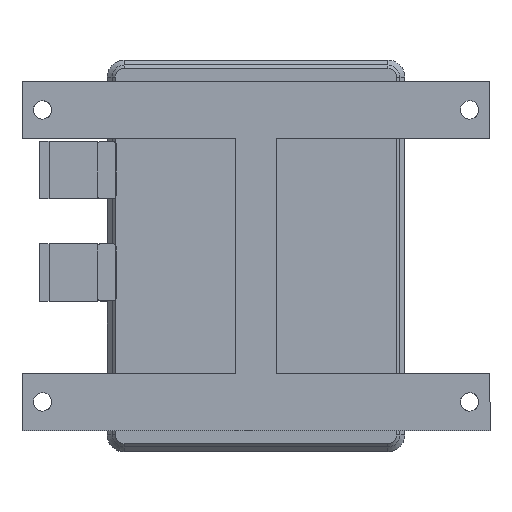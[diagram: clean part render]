
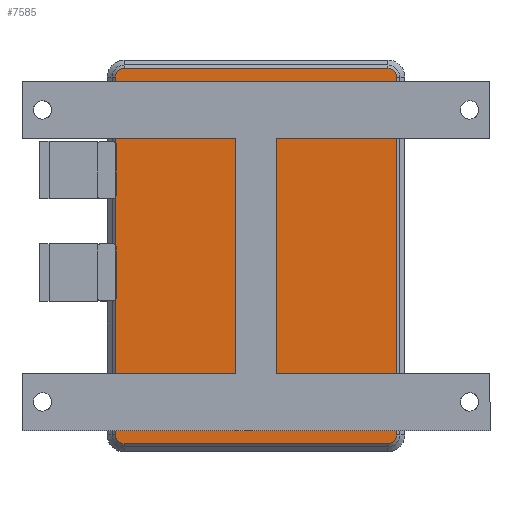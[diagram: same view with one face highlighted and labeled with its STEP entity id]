
A CAD part, top view. The second image highlights one B-rep face of the part: STEP entity #7585.
In plain terms, the highlighted planar face has unit normal (0, 0, 1).
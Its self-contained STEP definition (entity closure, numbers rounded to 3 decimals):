
#12=DIRECTION('',(1.0,0.0,0.0));
#1554=DIRECTION('',(-1.0,0.0,0.0));
#1675=DIRECTION('',(0.0,1.0,0.0));
#3434=CARTESIAN_POINT('',(14.1,-36.15,38.));
#3438=VERTEX_POINT('',#3434);
#3441=VECTOR('',#1675,3.2);
#3442=CARTESIAN_POINT('',(14.1,-39.35,38.));
#3443=LINE('',#3442,#3441);
#3444=VERTEX_POINT('',#3442);
#3445=EDGE_CURVE('',#3444,#3438,#3443,.T.);
#3464=VECTOR('',#12,1.8);
#3465=LINE('',#3442,#3464);
#3466=CARTESIAN_POINT('',(15.9,-39.35,38.));
#3467=VERTEX_POINT('',#3466);
#3468=EDGE_CURVE('',#3444,#3467,#3465,.T.);
#3481=DIRECTION('',(0.0,-1.0,0.0));
#3486=VECTOR('',#3481,3.2);
#3487=CARTESIAN_POINT('',(15.9,-36.15,38.));
#3488=LINE('',#3487,#3486);
#3489=VERTEX_POINT('',#3487);
#3490=EDGE_CURVE('',#3489,#3467,#3488,.T.);
#3512=LINE('',#3434,#3464);
#3513=EDGE_CURVE('',#3438,#3489,#3512,.T.);
#3522=CARTESIAN_POINT('',(14.1,-31.15,38.));
#3526=VERTEX_POINT('',#3522);
#3529=CARTESIAN_POINT('',(14.1,-34.35,38.));
#3530=LINE('',#3529,#3441);
#3531=VERTEX_POINT('',#3529);
#3532=EDGE_CURVE('',#3531,#3526,#3530,.T.);
#3549=LINE('',#3529,#3464);
#3550=CARTESIAN_POINT('',(15.9,-34.35,38.));
#3551=VERTEX_POINT('',#3550);
#3552=EDGE_CURVE('',#3531,#3551,#3549,.T.);
#3574=CARTESIAN_POINT('',(15.9,-31.15,38.));
#3575=LINE('',#3574,#3486);
#3576=VERTEX_POINT('',#3574);
#3577=EDGE_CURVE('',#3576,#3551,#3575,.T.);
#3592=VECTOR('',#1554,1.8);
#3593=LINE('',#3574,#3592);
#3594=EDGE_CURVE('',#3576,#3526,#3593,.T.);
#3603=CARTESIAN_POINT('',(-15.9,-36.15,38.));
#3607=VERTEX_POINT('',#3603);
#3610=LINE('',#3603,#3486);
#3611=CARTESIAN_POINT('',(-15.9,-39.35,38.));
#3612=VERTEX_POINT('',#3611);
#3613=EDGE_CURVE('',#3607,#3612,#3610,.T.);
#3635=CARTESIAN_POINT('',(-14.1,-39.35,38.));
#3636=LINE('',#3635,#3592);
#3637=VERTEX_POINT('',#3635);
#3638=EDGE_CURVE('',#3637,#3612,#3636,.T.);
#3655=CARTESIAN_POINT('',(-14.1,-36.15,38.));
#3656=LINE('',#3655,#3486);
#3657=VERTEX_POINT('',#3655);
#3658=EDGE_CURVE('',#3657,#3637,#3656,.T.);
#3670=LINE('',#3603,#3464);
#3671=EDGE_CURVE('',#3607,#3657,#3670,.T.);
#3690=CARTESIAN_POINT('',(-15.9,-31.15,38.));
#3692=VERTEX_POINT('',#3690);
#3695=LINE('',#3690,#3486);
#3696=CARTESIAN_POINT('',(-15.9,-34.35,38.));
#3697=VERTEX_POINT('',#3696);
#3698=EDGE_CURVE('',#3692,#3697,#3695,.T.);
#3710=CARTESIAN_POINT('',(-14.1,-34.35,38.));
#3711=LINE('',#3710,#3592);
#3712=VERTEX_POINT('',#3710);
#3713=EDGE_CURVE('',#3712,#3697,#3711,.T.);
#3735=CARTESIAN_POINT('',(-14.1,-31.15,38.));
#3736=LINE('',#3735,#3486);
#3737=VERTEX_POINT('',#3735);
#3738=EDGE_CURVE('',#3737,#3712,#3736,.T.);
#3750=LINE('',#3735,#3592);
#3751=EDGE_CURVE('',#3737,#3692,#3750,.T.);
#5359=CARTESIAN_POINT('',(-34.35,43.65,38.));
#5361=VERTEX_POINT('',#5359);
#5367=CARTESIAN_POINT('',(-32.15,45.85,38.));
#5369=VERTEX_POINT('',#5367);
#5372=CARTESIAN_POINT('',(-32.57,45.85,38.));
#5373=CARTESIAN_POINT('',(-33.383,45.528,38.));
#5374=CARTESIAN_POINT('',(-34.028,44.883,38.));
#5375=CARTESIAN_POINT('',(-34.35,44.07,38.));
#5376=(BOUNDED_CURVE()B_SPLINE_CURVE(2,(#5359,#5375,#5374,#5373,#5372,#5367),.UNSPECIFIED.,.U.,.U.)B_SPLINE_CURVE_WITH_KNOTS((3,1,1,1,3),(0.0,0.25,0.5,0.75,1.0),.UNSPECIFIED.)CURVE()GEOMETRIC_REPRESENTATION_ITEM()RATIONAL_B_SPLINE_CURVE((1.0,0.927,0.854,0.854,0.927,1.0))REPRESENTATION_ITEM(''));
#5377=EDGE_CURVE('',#5361,#5369,#5376,.T.);
#5389=CARTESIAN_POINT('',(32.15,45.85,38.));
#5391=VERTEX_POINT('',#5389);
#5397=CARTESIAN_POINT('',(34.35,43.65,38.));
#5399=VERTEX_POINT('',#5397);
#5402=CARTESIAN_POINT('',(34.35,43.65,38.));
#5403=CARTESIAN_POINT('',(34.35,44.07,38.));
#5404=CARTESIAN_POINT('',(34.028,44.883,38.));
#5405=CARTESIAN_POINT('',(33.383,45.528,38.));
#5406=CARTESIAN_POINT('',(32.57,45.85,38.));
#5407=(BOUNDED_CURVE()B_SPLINE_CURVE(2,(#5389,#5406,#5405,#5404,#5403,#5402),.UNSPECIFIED.,.U.,.U.)B_SPLINE_CURVE_WITH_KNOTS((3,1,1,1,3),(0.0,0.25,0.5,0.75,1.0),.UNSPECIFIED.)CURVE()GEOMETRIC_REPRESENTATION_ITEM()RATIONAL_B_SPLINE_CURVE((1.0,0.927,0.854,0.854,0.927,1.0))REPRESENTATION_ITEM(''));
#5408=EDGE_CURVE('',#5391,#5399,#5407,.T.);
#5421=DIRECTION('',(1.0,0.,0.0));
#5422=VECTOR('',#5421,64.3);
#5423=LINE('',#5367,#5422);
#5424=EDGE_CURVE('',#5369,#5391,#5423,.T.);
#7514=DIRECTION('',(-0.0,0.,1.0));
#7515=CARTESIAN_POINT('',(-34.35,-45.85,38.));
#7516=AXIS2_PLACEMENT_3D('',#7515,#7514,#12);
#7517=PLANE('',#7516);
#7518=ORIENTED_EDGE('',*,*,#3468,.F.);
#7519=ORIENTED_EDGE('',*,*,#3490,.T.);
#7520=ORIENTED_EDGE('',*,*,#3513,.T.);
#7521=ORIENTED_EDGE('',*,*,#3445,.T.);
#7522=EDGE_LOOP('',(#7521,#7520,#7519,#7518));
#7523=FACE_BOUND('',#7522,.T.);
#7524=ORIENTED_EDGE('',*,*,#3552,.F.);
#7525=ORIENTED_EDGE('',*,*,#3577,.T.);
#7526=ORIENTED_EDGE('',*,*,#3594,.F.);
#7527=ORIENTED_EDGE('',*,*,#3532,.T.);
#7528=EDGE_LOOP('',(#7527,#7526,#7525,#7524));
#7529=FACE_BOUND('',#7528,.T.);
#7530=ORIENTED_EDGE('',*,*,#3613,.F.);
#7531=ORIENTED_EDGE('',*,*,#3638,.T.);
#7532=ORIENTED_EDGE('',*,*,#3658,.T.);
#7533=ORIENTED_EDGE('',*,*,#3671,.T.);
#7534=EDGE_LOOP('',(#7533,#7532,#7531,#7530));
#7535=FACE_BOUND('',#7534,.T.);
#7536=ORIENTED_EDGE('',*,*,#3698,.F.);
#7537=ORIENTED_EDGE('',*,*,#3713,.T.);
#7538=ORIENTED_EDGE('',*,*,#3738,.T.);
#7539=ORIENTED_EDGE('',*,*,#3751,.F.);
#7540=EDGE_LOOP('',(#7539,#7538,#7537,#7536));
#7541=FACE_BOUND('',#7540,.T.);
#7542=ORIENTED_EDGE('',*,*,#5377,.F.);
#7543=ORIENTED_EDGE('',*,*,#5424,.F.);
#7544=ORIENTED_EDGE('',*,*,#5408,.F.);
#7545=DIRECTION('',(0.,-1.0,0.));
#7546=VECTOR('',#7545,87.3);
#7547=LINE('',#5397,#7546);
#7548=CARTESIAN_POINT('',(34.35,-43.65,38.));
#7549=VERTEX_POINT('',#7548);
#7550=EDGE_CURVE('',#5399,#7549,#7547,.T.);
#7551=ORIENTED_EDGE('',*,*,#7550,.F.);
#7552=CARTESIAN_POINT('',(32.15,-45.85,38.));
#7553=CARTESIAN_POINT('',(32.57,-45.85,38.));
#7554=CARTESIAN_POINT('',(33.383,-45.528,38.));
#7555=CARTESIAN_POINT('',(34.028,-44.883,38.));
#7556=CARTESIAN_POINT('',(34.35,-44.07,38.));
#7557=(BOUNDED_CURVE()B_SPLINE_CURVE(2,(#7548,#7556,#7555,#7554,#7553,#7552),.UNSPECIFIED.,.U.,.U.)B_SPLINE_CURVE_WITH_KNOTS((3,1,1,1,3),(0.0,0.25,0.5,0.75,1.0),.UNSPECIFIED.)CURVE()GEOMETRIC_REPRESENTATION_ITEM()RATIONAL_B_SPLINE_CURVE((1.0,0.927,0.854,0.854,0.927,1.0))REPRESENTATION_ITEM(''));
#7558=CARTESIAN_POINT('',(32.15,-45.85,38.));
#7559=VERTEX_POINT('',#7558);
#7560=EDGE_CURVE('',#7549,#7559,#7557,.T.);
#7561=ORIENTED_EDGE('',*,*,#7560,.F.);
#7562=DIRECTION('',(-1.0,0.,0.0));
#7563=VECTOR('',#7562,64.3);
#7564=LINE('',#7558,#7563);
#7565=CARTESIAN_POINT('',(-32.15,-45.85,38.));
#7566=VERTEX_POINT('',#7565);
#7567=EDGE_CURVE('',#7559,#7566,#7564,.T.);
#7568=ORIENTED_EDGE('',*,*,#7567,.F.);
#7569=CARTESIAN_POINT('',(-34.35,-43.65,38.));
#7570=CARTESIAN_POINT('',(-34.35,-44.07,38.));
#7571=CARTESIAN_POINT('',(-34.028,-44.883,38.));
#7572=CARTESIAN_POINT('',(-33.383,-45.528,38.));
#7573=CARTESIAN_POINT('',(-32.57,-45.85,38.));
#7574=(BOUNDED_CURVE()B_SPLINE_CURVE(2,(#7565,#7573,#7572,#7571,#7570,#7569),.UNSPECIFIED.,.U.,.U.)B_SPLINE_CURVE_WITH_KNOTS((3,1,1,1,3),(0.0,0.25,0.5,0.75,1.0),.UNSPECIFIED.)CURVE()GEOMETRIC_REPRESENTATION_ITEM()RATIONAL_B_SPLINE_CURVE((1.0,0.927,0.854,0.854,0.927,1.0))REPRESENTATION_ITEM(''));
#7575=VERTEX_POINT('',#7569);
#7576=EDGE_CURVE('',#7566,#7575,#7574,.T.);
#7577=ORIENTED_EDGE('',*,*,#7576,.F.);
#7578=DIRECTION('',(0.,1.0,0.));
#7579=VECTOR('',#7578,87.3);
#7580=LINE('',#7569,#7579);
#7581=EDGE_CURVE('',#7575,#5361,#7580,.T.);
#7582=ORIENTED_EDGE('',*,*,#7581,.F.);
#7583=EDGE_LOOP('',(#7582,#7577,#7568,#7561,#7551,#7544,#7543,#7542));
#7584=FACE_BOUND('',#7583,.T.);
#7585=ADVANCED_FACE('',(#7584,#7541,#7535,#7529,#7523),#7517,.T.);
